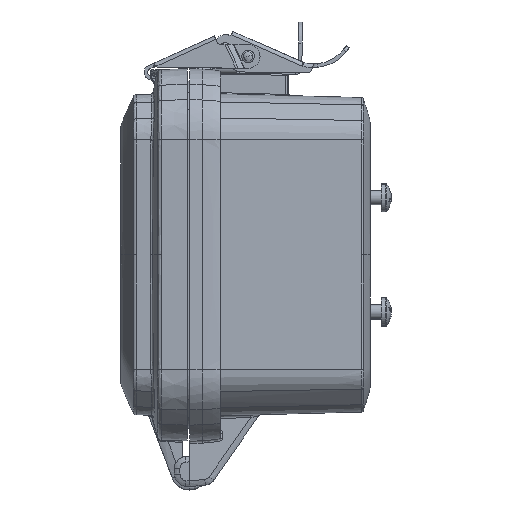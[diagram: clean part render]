
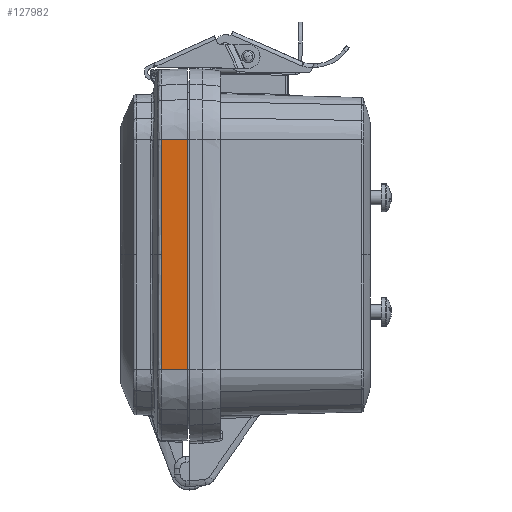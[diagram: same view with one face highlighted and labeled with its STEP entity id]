
A CAD part, left-side view. The second image highlights one B-rep face of the part: STEP entity #127982.
In plain terms, the highlighted planar face has unit normal (-0.999, 0.035, 0).
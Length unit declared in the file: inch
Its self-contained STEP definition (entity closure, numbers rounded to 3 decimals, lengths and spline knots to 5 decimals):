
#3352 = CARTESIAN_POINT ( 'NONE',  ( -2.945, 0., -1.51158 ) ) ;
#5052 = CARTESIAN_POINT ( 'NONE',  ( -2.945, 0., -1.51158 ) ) ;
#5307 = CARTESIAN_POINT ( 'NONE',  ( -2.93305, 0.34235, -1.51158 ) ) ;
#8290 = EDGE_CURVE ( 'NONE', #17146, #88491, #106458, .T. ) ;
#10060 = ORIENTED_EDGE ( 'NONE', *, *, #144191, .F. ) ;
#10778 = CARTESIAN_POINT ( 'NONE',  ( -2.93304, 0.34235, 1.19666 ) ) ;
#12136 = CARTESIAN_POINT ( 'NONE',  ( -2.93304, 0.34235, 0. ) ) ;
#14837 = B_SPLINE_CURVE_WITH_KNOTS ( 'NONE', 3,
 ( #12136, #94218, #146710, #54891, #121266, #119530, #40080, #159810, #105608, #68017, #39203, #172036, #26955 ),
 .UNSPECIFIED., .F., .F.,
 ( 4, 2, 2, 2, 1, 2, 4 ),
 ( 0., 0.0192, 0.0288, 0.03359, 0.03599, 0.03719, 0.03839 ),
 .UNSPECIFIED. ) ;
#17146 = VERTEX_POINT ( 'NONE', #5307 ) ;
#19475 = EDGE_CURVE ( 'NONE', #153692, #45698, #170260, .T. ) ;
#24032 = EDGE_CURVE ( 'NONE', #45698, #17146, #14837, .T. ) ;
#26955 = CARTESIAN_POINT ( 'NONE',  ( -2.93305, 0.34235, -1.51158 ) ) ;
#28636 = LINE ( 'NONE', #5052, #142480 ) ;
#38690 = CARTESIAN_POINT ( 'NONE',  ( -2.93304, 0.34243, 1.49583 ) ) ;
#39203 = CARTESIAN_POINT ( 'NONE',  ( -2.93304, 0.34238, -1.48009 ) ) ;
#40069 = DIRECTION ( 'NONE',  ( -0.035, -0.999, 0. ) ) ;
#40080 = CARTESIAN_POINT ( 'NONE',  ( -2.93305, 0.34235, -1.25965 ) ) ;
#45698 = VERTEX_POINT ( 'NONE', #154978 ) ;
#46952 = FACE_OUTER_BOUND ( 'NONE', #66925, .T. ) ;
#50939 = VECTOR ( 'NONE', #40069, 39.37008 ) ;
#50966 = CARTESIAN_POINT ( 'NONE',  ( -2.93304, 0.34235, 0. ) ) ;
#54891 = CARTESIAN_POINT ( 'NONE',  ( -2.93304, 0.34236, -0.88175 ) ) ;
#60057 = ORIENTED_EDGE ( 'NONE', *, *, #8290, .T. ) ;
#64054 = CARTESIAN_POINT ( 'NONE',  ( -2.93305, 0.34235, 1.25965 ) ) ;
#66925 = EDGE_LOOP ( 'NONE', ( #10060, #159567, #157061, #60057, #171811 ) ) ;
#68017 = CARTESIAN_POINT ( 'NONE',  ( -2.93304, 0.34237, -1.44859 ) ) ;
#73681 = CARTESIAN_POINT ( 'NONE',  ( -2.945, 0., 1.51158 ) ) ;
#78031 = CARTESIAN_POINT ( 'NONE',  ( -2.93304, 0.34237, 1.44859 ) ) ;
#78885 = CARTESIAN_POINT ( 'NONE',  ( -2.93304, 0.34238, 1.48009 ) ) ;
#83659 = DIRECTION ( 'NONE',  ( 0., 0., 1. ) ) ;
#85715 = EDGE_CURVE ( 'NONE', #88491, #88637, #28636, .T. ) ;
#88491 = VERTEX_POINT ( 'NONE', #112526 ) ;
#88637 = VERTEX_POINT ( 'NONE', #73681 ) ;
#90272 = CARTESIAN_POINT ( 'NONE',  ( -2.93305, 0.34235, 1.51158 ) ) ;
#92002 = CARTESIAN_POINT ( 'NONE',  ( -2.93304, 0.34235, 1.40136 ) ) ;
#94218 = CARTESIAN_POINT ( 'NONE',  ( -2.93304, 0.34236, -0.25193 ) ) ;
#100229 = PLANE ( 'NONE',  #172024 ) ;
#105608 = CARTESIAN_POINT ( 'NONE',  ( -2.93304, 0.34235, -1.40136 ) ) ;
#106458 = LINE ( 'NONE', #3352, #50939 ) ;
#109149 = CARTESIAN_POINT ( 'NONE',  ( -2.945, 0., 1.51158 ) ) ;
#112526 = CARTESIAN_POINT ( 'NONE',  ( -2.945, 0., -1.51158 ) ) ;
#114269 = VECTOR ( 'NONE', #151965, 39.37008 ) ;
#116475 = CARTESIAN_POINT ( 'NONE',  ( -2.93304, 0.34235, 0.50386 ) ) ;
#117323 = CARTESIAN_POINT ( 'NONE',  ( -2.93304, 0.34236, 0.88175 ) ) ;
#119530 = CARTESIAN_POINT ( 'NONE',  ( -2.93304, 0.34235, -1.19666 ) ) ;
#121266 = CARTESIAN_POINT ( 'NONE',  ( -2.93304, 0.34237, -1.00772 ) ) ;
#127273 = DIRECTION ( 'NONE',  ( -0.999, 0.035, 0. ) ) ;
#127982 = ADVANCED_FACE ( 'NONE', ( #46952 ), #100229, .T. ) ;
#137094 = LINE ( 'NONE', #109149, #114269 ) ;
#142480 = VECTOR ( 'NONE', #83659, 39.37008 ) ;
#142746 = CARTESIAN_POINT ( 'NONE',  ( -2.93304, 0.34237, 1.00772 ) ) ;
#144191 = EDGE_CURVE ( 'NONE', #153692, #88637, #137094, .T. ) ;
#145336 = CARTESIAN_POINT ( 'NONE',  ( -2.93304, 0.34236, 0.25193 ) ) ;
#146710 = CARTESIAN_POINT ( 'NONE',  ( -2.93304, 0.34235, -0.50386 ) ) ;
#151965 = DIRECTION ( 'NONE',  ( -0.035, -0.999, 0. ) ) ;
#153692 = VERTEX_POINT ( 'NONE', #172224 ) ;
#154978 = CARTESIAN_POINT ( 'NONE',  ( -2.93304, 0.34235, 0. ) ) ;
#155267 = DIRECTION ( 'NONE',  ( -0.035, -0.999, 0. ) ) ;
#155853 = CARTESIAN_POINT ( 'NONE',  ( -2.93304, 0.34235, 1.35412 ) ) ;
#156969 = CARTESIAN_POINT ( 'NONE',  ( -2.945, 0., -1.51158 ) ) ;
#157061 = ORIENTED_EDGE ( 'NONE', *, *, #24032, .T. ) ;
#159567 = ORIENTED_EDGE ( 'NONE', *, *, #19475, .T. ) ;
#159810 = CARTESIAN_POINT ( 'NONE',  ( -2.93304, 0.34235, -1.35412 ) ) ;
#170260 = B_SPLINE_CURVE_WITH_KNOTS ( 'NONE', 3,
 ( #90272, #38690, #78885, #78031, #92002, #155853, #64054, #10778, #142746, #117323, #116475, #145336, #50966 ),
 .UNSPECIFIED., .F., .F.,
 ( 4, 2, 1, 2, 2, 2, 4 ),
 ( 0., 0.0012, 0.0024, 0.0048, 0.0096, 0.0192, 0.03839 ),
 .UNSPECIFIED. ) ;
#171811 = ORIENTED_EDGE ( 'NONE', *, *, #85715, .T. ) ;
#172024 = AXIS2_PLACEMENT_3D ( 'NONE', #156969, #127273, #155267 ) ;
#172036 = CARTESIAN_POINT ( 'NONE',  ( -2.93304, 0.34243, -1.49583 ) ) ;
#172224 = CARTESIAN_POINT ( 'NONE',  ( -2.93305, 0.34235, 1.51158 ) ) ;
